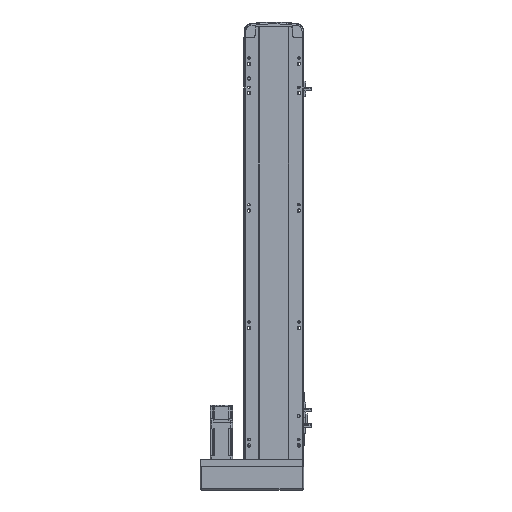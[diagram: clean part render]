
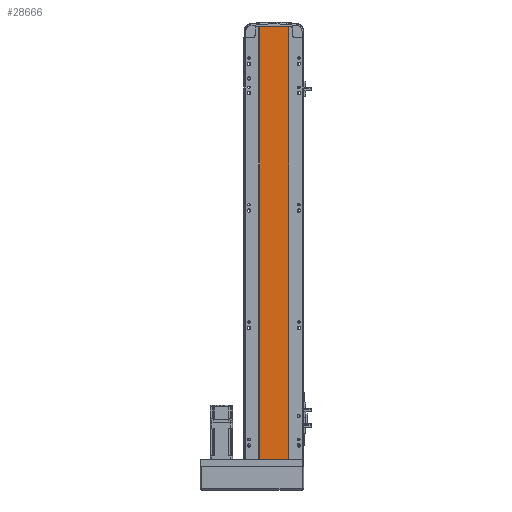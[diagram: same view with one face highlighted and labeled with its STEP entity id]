
A CAD part, front view. The second image highlights one B-rep face of the part: STEP entity #28666.
In plain terms, the highlighted planar face has unit normal (0, -1, 0).
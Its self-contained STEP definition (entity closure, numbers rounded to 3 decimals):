
#2044 = CARTESIAN_POINT ( 'NONE',  ( -24.5, 2., 737. ) ) ;
#3460 = EDGE_CURVE ( 'NONE', #14516, #29361, #30839, .T. ) ;
#3919 = EDGE_CURVE ( 'NONE', #4016, #29361, #31537, .T. ) ;
#4016 = VERTEX_POINT ( 'NONE', #6138 ) ;
#5121 = LINE ( 'NONE', #21736, #57094 ) ;
#6138 = CARTESIAN_POINT ( 'NONE',  ( -24.5, 2., 0. ) ) ;
#6259 = ORIENTED_EDGE ( 'NONE', *, *, #38074, .F. ) ;
#9314 = DIRECTION ( 'NONE',  ( 0., 0., -1. ) ) ;
#9824 = DIRECTION ( 'NONE',  ( 1., 0., 0. ) ) ;
#11176 = FACE_OUTER_BOUND ( 'NONE', #57086, .T. ) ;
#14414 = DIRECTION ( 'NONE',  ( 0., 0., -1. ) ) ;
#14516 = VERTEX_POINT ( 'NONE', #32600 ) ;
#14621 = CARTESIAN_POINT ( 'NONE',  ( 24.5, 2., 737. ) ) ;
#18220 = ORIENTED_EDGE ( 'NONE', *, *, #3919, .T. ) ;
#21110 = DIRECTION ( 'NONE',  ( 0., 0., 1. ) ) ;
#21736 = CARTESIAN_POINT ( 'NONE',  ( -24.5, 2., 737. ) ) ;
#28120 = VERTEX_POINT ( 'NONE', #2044 ) ;
#28666 = ADVANCED_FACE ( 'NONE', ( #11176 ), #39114, .F. ) ;
#29361 = VERTEX_POINT ( 'NONE', #32654 ) ;
#30839 = LINE ( 'NONE', #14621, #56917 ) ;
#31537 = LINE ( 'NONE', #54841, #39883 ) ;
#32600 = CARTESIAN_POINT ( 'NONE',  ( 24.5, 2., 737. ) ) ;
#32654 = CARTESIAN_POINT ( 'NONE',  ( 24.5, 2., 0. ) ) ;
#38074 = EDGE_CURVE ( 'NONE', #28120, #14516, #5121, .T. ) ;
#39114 = PLANE ( 'NONE',  #42036 ) ;
#39146 = DIRECTION ( 'NONE',  ( 1., 0., 0. ) ) ;
#39883 = VECTOR ( 'NONE', #9824, 1000. ) ;
#42036 = AXIS2_PLACEMENT_3D ( 'NONE', #48210, #52722, #21110 ) ;
#43742 = ORIENTED_EDGE ( 'NONE', *, *, #3460, .F. ) ;
#45077 = CARTESIAN_POINT ( 'NONE',  ( -24.5, 2., 737. ) ) ;
#45967 = EDGE_CURVE ( 'NONE', #28120, #4016, #55773, .T. ) ;
#47120 = ORIENTED_EDGE ( 'NONE', *, *, #45967, .T. ) ;
#48210 = CARTESIAN_POINT ( 'NONE',  ( 0., 2., 737. ) ) ;
#52722 = DIRECTION ( 'NONE',  ( 0., 1., 0. ) ) ;
#54841 = CARTESIAN_POINT ( 'NONE',  ( 0., 2., 0. ) ) ;
#55060 = VECTOR ( 'NONE', #9314, 1000. ) ;
#55773 = LINE ( 'NONE', #45077, #55060 ) ;
#56917 = VECTOR ( 'NONE', #14414, 1000. ) ;
#57086 = EDGE_LOOP ( 'NONE', ( #18220, #43742, #6259, #47120 ) ) ;
#57094 = VECTOR ( 'NONE', #39146, 1000. ) ;
